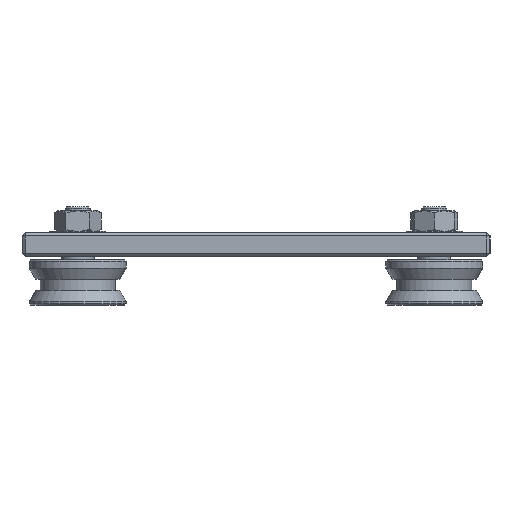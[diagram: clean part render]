
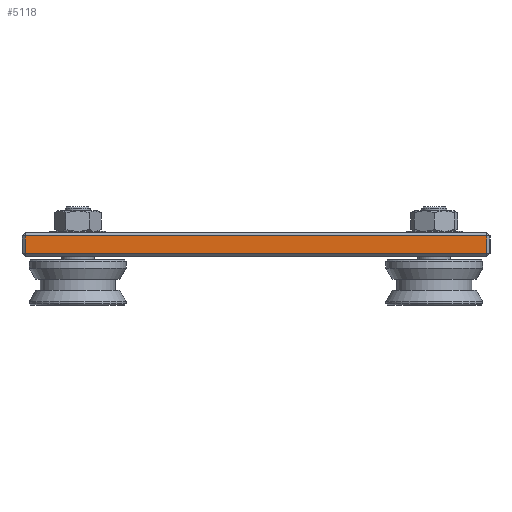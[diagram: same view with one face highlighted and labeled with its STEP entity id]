
A CAD part, left-side view. The second image highlights one B-rep face of the part: STEP entity #5118.
In plain terms, the highlighted planar face has unit normal (-1, 0, 0).
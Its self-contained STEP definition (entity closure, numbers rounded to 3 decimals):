
#16 = LINE ( 'NONE', #97, #96 ) ;
#17 = DIRECTION ( 'NONE',  ( 0., 1., 0. ) ) ;
#18 = DIRECTION ( 'NONE',  ( 1., 0., 0. ) ) ;
#19 = CARTESIAN_POINT ( 'NONE',  ( -88., 75., 0. ) ) ;
#20 = AXIS2_PLACEMENT_3D ( 'NONE', #19, #18, #17 ) ;
#21 = PLANE ( 'NONE',  #20 ) ;
#22 = FACE_OUTER_BOUND ( 'NONE', #5119, .T. ) ;
#49 = DIRECTION ( 'NONE',  ( 0., -1., 0. ) ) ;
#50 = VECTOR ( 'NONE', #49, 1000. ) ;
#95 = DIRECTION ( 'NONE',  ( 0., 1., 0. ) ) ;
#96 = VECTOR ( 'NONE', #95, 1000. ) ;
#97 = CARTESIAN_POINT ( 'NONE',  ( -88., 75., -1. ) ) ;
#131 = CARTESIAN_POINT ( 'NONE',  ( -88., -75., -6.7 ) ) ;
#132 = LINE ( 'NONE', #131, #50 ) ;
#4471 = VERTEX_POINT ( 'NONE', #7491 ) ;
#4511 = VERTEX_POINT ( 'NONE', #7370 ) ;
#4821 = VERTEX_POINT ( 'NONE', #8017 ) ;
#4823 = EDGE_CURVE ( 'NONE', #4471, #4821, #8016, .T. ) ;
#4828 = EDGE_CURVE ( 'NONE', #4829, #4511, #8006, .T. ) ;
#4829 = VERTEX_POINT ( 'NONE', #8001 ) ;
#5057 = EDGE_CURVE ( 'NONE', #4511, #4471, #132, .T. ) ;
#5110 = ORIENTED_EDGE ( 'NONE', *, *, #4828, .T. ) ;
#5111 = ORIENTED_EDGE ( 'NONE', *, *, #5057, .T. ) ;
#5112 = ORIENTED_EDGE ( 'NONE', *, *, #4823, .T. ) ;
#5118 = ADVANCED_FACE ( 'NONE', ( #22 ), #21, .F. ) ;
#5119 = EDGE_LOOP ( 'NONE', ( #5120, #5110, #5111, #5112 ) ) ;
#5120 = ORIENTED_EDGE ( 'NONE', *, *, #5121, .T. ) ;
#5121 = EDGE_CURVE ( 'NONE', #4821, #4829, #16, .T. ) ;
#7370 = CARTESIAN_POINT ( 'NONE',  ( -88., 74., -6.7 ) ) ;
#7491 = CARTESIAN_POINT ( 'NONE',  ( -88., -74., -6.7 ) ) ;
#8001 = CARTESIAN_POINT ( 'NONE',  ( -88., 74., -1. ) ) ;
#8003 = DIRECTION ( 'NONE',  ( 0., 0., -1. ) ) ;
#8004 = VECTOR ( 'NONE', #8003, 1000. ) ;
#8005 = CARTESIAN_POINT ( 'NONE',  ( -88., 74., 0. ) ) ;
#8006 = LINE ( 'NONE', #8005, #8004 ) ;
#8013 = DIRECTION ( 'NONE',  ( 0., 0., 1. ) ) ;
#8014 = VECTOR ( 'NONE', #8013, 1000. ) ;
#8015 = CARTESIAN_POINT ( 'NONE',  ( -88., -74., 0. ) ) ;
#8016 = LINE ( 'NONE', #8015, #8014 ) ;
#8017 = CARTESIAN_POINT ( 'NONE',  ( -88., -74., -1. ) ) ;
